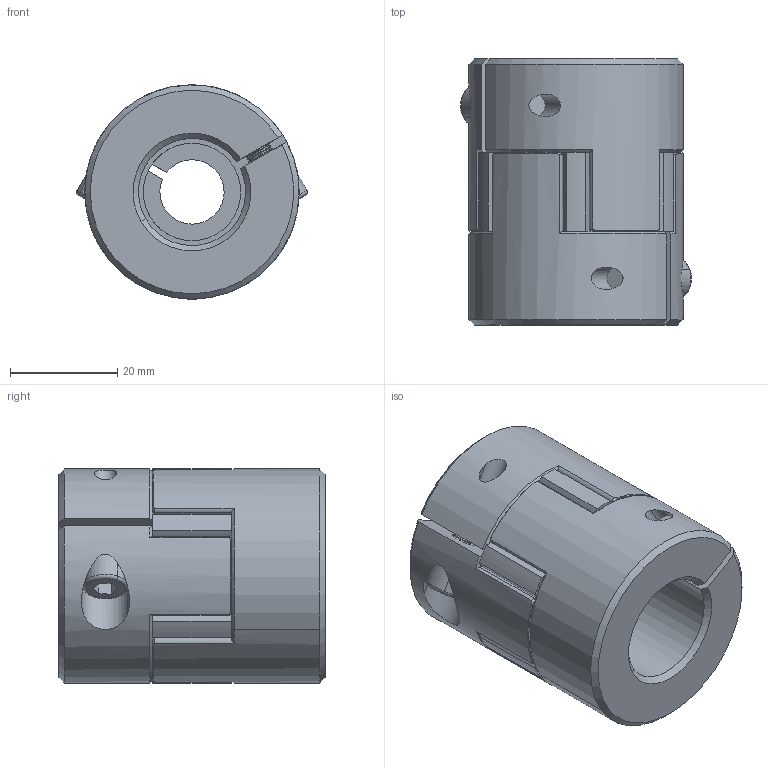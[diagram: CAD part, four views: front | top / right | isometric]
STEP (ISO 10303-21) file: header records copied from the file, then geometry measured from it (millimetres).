
FILE_DESCRIPTION (( 'STEP AP203' ), '1' );
FILE_NAME ('LF-B-D40L50-12-20.STEP', '2021-10-25T02:45:05', ( '' ), ( '' ), 'SwSTEP 2.0', 'SolidWorks 2018', '' );
FILE_SCHEMA (( 'CONFIG_CONTROL_DESIGN' ));
Length unit declared in the file: millimetre
Products named in the file (1): LF-B-D40L50-12-20
Bounding box: 43.11 x 49.7 x 40 mm (x, y, z)
Volume: 49501.4 mm3; surface area: 14666.7 mm2
Topology: 1 solids, 7 shells, 470 faces, 1113 edges, 660 vertices
Faces by surface type: cone 170, cylinder 169, plane 127, torus 4
Entity records: 13932 total; most frequent: CARTESIAN_POINT 2888, DIRECTION 2501, ORIENTED_EDGE 2218, EDGE_CURVE 1109, AXIS2_PLACEMENT_3D 1037, VERTEX_POINT 660, CIRCLE 566, EDGE_LOOP 487
